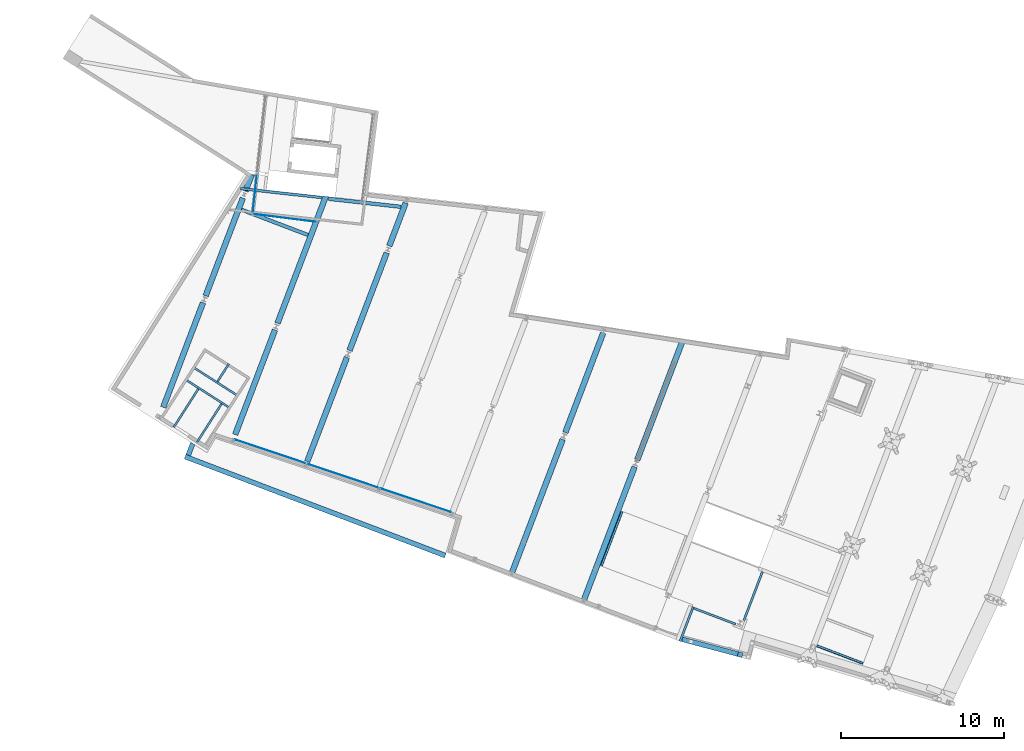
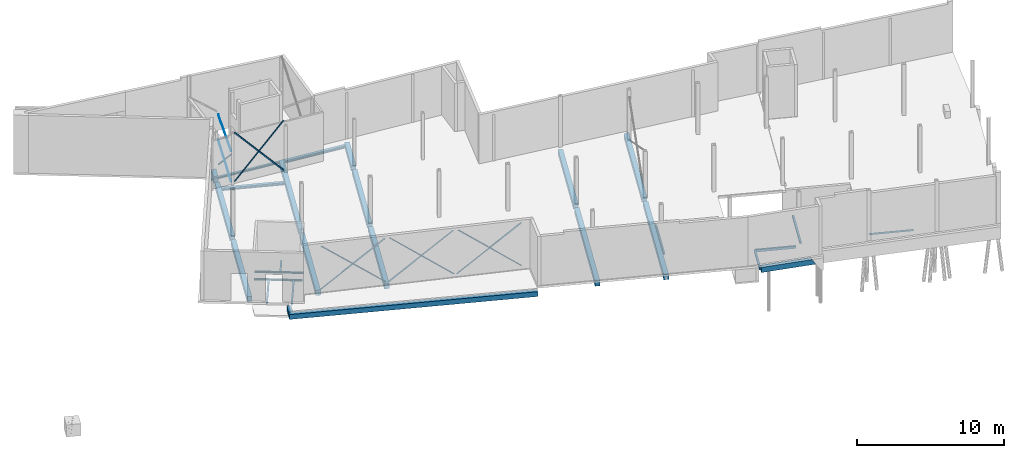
# One storey, part 39 of 46: 32 beams.
"""IFC2X3 building model written with IfcOpenShell, lengths in millimetres."""

from ifc_helpers import new_model, entity, si_unit, converted_unit, derived_unit, direction, frame, frame_2d, origin, place, context, subcontext, project, spatial, polyline, circle_curve, parameter, trimmed, segment, composite_curve, rectangle, i_section, outline, extrude, clip, halfspace, source, transform, mapped, material, type_object, type_shapes, element, save


model = new_model("IFC2X3")

# Units and contexts
model_context = context("Model", 3, precision=0.01, world=origin(), true_north=direction((6.123233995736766e-17, 1.0)))
body_context = subcontext(model_context, "Body", "Model", "MODEL_VIEW")
ifc_project = project(units=[si_unit("LENGTHUNIT", "METRE", prefix="MILLI"), converted_unit("PLANEANGLEUNIT", "DEGREE", entity("IfcPlaneAngleMeasure", 0.017453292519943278), si_unit("PLANEANGLEUNIT", "RADIAN"), dimensions=[0, 0, 0, 0, 0, 0, 0]), si_unit("AREAUNIT", "SQUARE_METRE"), derived_unit("THERMALTRANSMITTANCEUNIT", [(si_unit("MASSUNIT", "GRAM", prefix="KILO"), 1), (si_unit("THERMODYNAMICTEMPERATUREUNIT", "KELVIN"), -1), (si_unit("TIMEUNIT", "SECOND"), -3)])], contexts=[model_context])

# Site, building, storey
site_placement = place(None, frame((-72937.88054949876, 11621.45624098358, 0.0), z_axis=(0.0, 0.0, 1.0), x_axis=(0.9346418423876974, -0.35559053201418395, 0.0)))
site = spatial("IfcSite", under=ifc_project, at=site_placement, Name="Default", CompositionType="ELEMENT")
building_placement = place(site_placement, origin())
building = spatial("IfcBuilding", under=site, at=building_placement, CompositionType="ELEMENT")
storey_placement = place(building_placement, origin())
storey = spatial("IfcBuildingStorey", under=building, at=storey_placement, Name="00 begane grond", CompositionType="ELEMENT", Elevation=0.0)

# Beams
ifc_material_1 = material(Name="beton_gewapend_ihw")
beam_type_1 = type_object("IfcBeamType", Name="balk 350x600mm", PredefinedType="BEAM", material=ifc_material_1)
shared_shape_1 = source(origin(), body_context, "Body", "SweptSolid", [
    extrude(rectangle(XDim=430.0000000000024, YDim=349.9999999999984, at=frame_2d((-4.334310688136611e-12, 0.0), x_axis=(0.0, 1.0))), frame((43380.0, 12842.982078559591, -445.0), z_axis=(0.0, 1.0, 0.0), x_axis=(-1.0, 0.0, 0.0)), (0.0, 0.0, 1.0), 8812.017921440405),
    clip(extrude(rectangle(XDim=430.0000000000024, YDim=349.9999999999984, at=frame_2d((4.334310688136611e-12, 0.0), x_axis=(0.0, 1.0))), frame((43380.0, 22105.0, -445.0), z_axis=(0.0, 1.0, 0.0), x_axis=(-1.0, 0.0, 0.0)), (0.0, 0.0, 1.0), 7786.16173509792), halfspace(frame((49694.01432330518, 31194.879408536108, -3160.0), z_axis=(-0.2077333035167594, 0.9781855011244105, 0.0), x_axis=(0.9781855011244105, 0.2077333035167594, 0.0)), False)),
])
type_shapes(beam_type_1, [shared_shape_1])
beam_1_placement = place(storey_placement, origin())
element("IfcBeam", 1, at=beam_1_placement, inside=storey, type_object=beam_type_1, material=ifc_material_1, Name="28.11_SF_BetonBalk:balk 350x600mm", ObjectType="28.11_SF_BetonBalk:balk 350x600mm", context=body_context, shape_type="MappedRepresentation", body=[
    mapped(shared_shape_1, transform((0.0, 0.0, 0.0), scale=1.0)),
])
beam_type_2 = type_object("IfcBeamType", Name="balk 350x600mm", PredefinedType="BEAM", material=ifc_material_1)
shared_shape_2 = source(origin(), body_context, "Body", "SweptSolid", [
    extrude(rectangle(XDim=430.0000000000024, YDim=349.9999999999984, at=frame_2d((0.0, 0.0), x_axis=(0.0, 1.0))), frame((38650.0, 12842.982078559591, -445.0), z_axis=(0.0, 1.0, 0.0), x_axis=(-1.0, 0.0, 0.0)), (0.0, 0.0, 1.0), 8812.017921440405),
    extrude(rectangle(XDim=430.0000000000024, YDim=349.9999999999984, at=frame_2d((0.0, 0.0), x_axis=(0.0, 1.0))), frame((38650.0, 22105.0, -445.0), z_axis=(0.0, 1.0, 0.0), x_axis=(-1.0, 0.0, 0.0)), (0.0, 0.0, 1.0), 6562.653255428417),
])
type_shapes(beam_type_2, [shared_shape_2])
beam_2_placement = place(storey_placement, origin())
element("IfcBeam", 2, at=beam_2_placement, inside=storey, type_object=beam_type_2, material=ifc_material_1, Name="28.11_SF_BetonBalk:balk 350x600mm", ObjectType="28.11_SF_BetonBalk:balk 350x600mm", context=body_context, shape_type="MappedRepresentation", body=[
    mapped(shared_shape_2, transform((0.0, 0.0, 0.0), scale=1.0)),
])
beam_type_3 = type_object("IfcBeamType", Name="balk 350x600mm", PredefinedType="BEAM", material=ifc_material_1)
shared_shape_3 = source(origin(), body_context, "Body", "SweptSolid", [
    extrude(rectangle(XDim=430.0000000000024, YDim=349.9999999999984, at=frame_2d((0.0, 0.0), x_axis=(0.0, 1.0))), frame((24460.0, 14800.0, -445.0), z_axis=(0.0, 1.0, 0.0), x_axis=(-1.0, 0.0, 0.0)), (0.0, 0.0, 1.0), 6854.999999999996),
    extrude(rectangle(XDim=430.0000000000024, YDim=349.9999999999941, at=frame_2d((4.334310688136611e-12, 0.0), x_axis=(0.0, 1.0))), frame((24460.0, 22105.0, -445.0), z_axis=(0.0, 1.0, 0.0), x_axis=(-1.0, 0.0, 0.0)), (0.0, 0.0, 1.0), 6429.999999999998),
    extrude(rectangle(XDim=430.0000000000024, YDim=349.9999999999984, at=frame_2d((0.0, 0.0), x_axis=(0.0, 1.0))), frame((24460.0, 28985.0, -445.0), z_axis=(0.0, 1.0, 0.0), x_axis=(-1.0, 0.0, 0.0)), (0.0, 0.0, 1.0), 2824.9845835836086),
])
type_shapes(beam_type_3, [shared_shape_3])
beam_3_placement = place(storey_placement, origin())
element("IfcBeam", 3, at=beam_3_placement, inside=storey, type_object=beam_type_3, material=ifc_material_1, Name="28.11_SF_BetonBalk:balk 350x600mm", ObjectType="28.11_SF_BetonBalk:balk 350x600mm", context=body_context, shape_type="MappedRepresentation", body=[
    mapped(shared_shape_3, transform((0.0, 0.0, 0.0), scale=1.0)),
])
beam_type_4 = type_object("IfcBeamType", Name="balk 350x600mm", PredefinedType="BEAM", material=ifc_material_1)
shared_shape_4 = source(origin(), body_context, "Body", "SweptSolid", [
    extrude(rectangle(XDim=430.0000000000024, YDim=349.9999999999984, at=frame_2d((0.0, 0.0), x_axis=(0.0, 1.0))), frame((19730.0, 14775.0, -445.0), z_axis=(0.0, 1.0, 0.0), x_axis=(-1.0, 0.0, 0.0)), (0.0, 0.0, 1.0), 6879.999999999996),
    clip(extrude(rectangle(XDim=430.0000000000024, YDim=349.9999999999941, at=frame_2d((4.334310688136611e-12, 0.0), x_axis=(0.0, 1.0))), frame((19730.0, 22105.0, -445.0), z_axis=(0.0, 1.0, 0.0), x_axis=(-1.0, 0.0, 0.0)), (0.0, 0.0, 1.0), 8381.038285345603), halfspace(frame((19438.294575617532, 30365.012223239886, 16108.554295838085), z_axis=(-0.2510172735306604, 0.9679826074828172, 0.0), x_axis=(0.0, 0.0, -1.0)), False)),
])
type_shapes(beam_type_4, [shared_shape_4])
beam_4_placement = place(storey_placement, origin())
element("IfcBeam", 4, at=beam_4_placement, inside=storey, type_object=beam_type_4, material=ifc_material_1, Name="28.11_SF_BetonBalk:balk 350x600mm", ObjectType="28.11_SF_BetonBalk:balk 350x600mm", context=body_context, shape_type="MappedRepresentation", body=[
    mapped(shared_shape_4, transform((0.0, 0.0, 0.0), scale=1.0)),
])
beam_type_5 = type_object("IfcBeamType", Name="balk 350x600mm", PredefinedType="BEAM", material=ifc_material_1)
shared_shape_5 = source(origin(), body_context, "Body", "SweptSolid", [
    extrude(rectangle(XDim=430.0000000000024, YDim=350.00000000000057, at=frame_2d((-2.1600499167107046e-12, 0.0), x_axis=(0.0, 1.0))), frame((15000.0, 14775.0, -445.0), z_axis=(0.0, 1.0, 0.0), x_axis=(-1.0, 0.0, 0.0)), (0.0, 0.0, 1.0), 6879.999999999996),
    extrude(rectangle(XDim=430.0000000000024, YDim=350.00000000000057, at=frame_2d((0.0, 0.0), x_axis=(0.0, 1.0))), frame((15000.0, 22105.0, -445.0), z_axis=(0.0, 1.0, 0.0), x_axis=(-1.0, 0.0, 0.0)), (0.0, 0.0, 1.0), 6430.000000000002),
    clip(extrude(rectangle(XDim=430.0000000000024, YDim=350.00000000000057, at=frame_2d((-2.1600499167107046e-12, 0.0), x_axis=(0.0, 1.0))), frame((15000.0, 28985.0, -445.0), z_axis=(0.0, 1.0, 0.0), x_axis=(-1.0, 0.0, 0.0)), (0.0, 0.0, 1.0), 1123.627127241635), halfspace(frame((15794.922917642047, 30263.087579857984, -3160.0), z_axis=(-0.24176909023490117, 0.9703338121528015, 0.0), x_axis=(0.9703338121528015, 0.24176909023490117, 0.0)), False)),
])
type_shapes(beam_type_5, [shared_shape_5])
beam_5_placement = place(storey_placement, origin())
element("IfcBeam", 5, at=beam_5_placement, inside=storey, type_object=beam_type_5, material=ifc_material_1, Name="28.11_SF_BetonBalk:balk 350x600mm", ObjectType="28.11_SF_BetonBalk:balk 350x600mm", context=body_context, shape_type="MappedRepresentation", body=[
    mapped(shared_shape_5, transform((0.0, 0.0, 0.0), scale=1.0)),
])
beam_type_6 = type_object("IfcBeamType", Name="300x300mm", PredefinedType="BEAM")
beam_6_placement = place(storey_placement, frame((49740.0, 12622.982078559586, -60.0), z_axis=(0.0, 0.0, 1.0), x_axis=(0.994558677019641, 0.10417791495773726, 0.0)))
element("IfcBeam", 6, at=beam_6_placement, inside=storey, type_object=beam_type_6, material=ifc_material_1, Name="16.12_Beton balk", ObjectType="i.h.w.g. betonnen balk", context=body_context, shape_type="SweptSolid", body=[
    clip(clip(extrude(rectangle(XDim=430.0000000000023, YDim=300.0000000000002, at=frame_2d((-6.821210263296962e-13, -2.1600499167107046e-12), x_axis=(1.0, 0.0))), frame((150.82066394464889, 150.0, -385.0), z_axis=(1.0, 0.0, 0.0), x_axis=(0.0, 0.0, -1.0)), (0.0, 0.0, 1.0), 3836.7937327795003), halfspace(frame((146.58963205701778, -40.392529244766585, -170.0), z_axis=(-0.9945586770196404, 0.10417791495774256, 0.0), x_axis=(0.0, 0.0, -1.0)), False)), halfspace(frame((3586.0567089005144, 457.96317948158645, 0.0), z_axis=(0.8303916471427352, -0.005334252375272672, 0.5571546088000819), x_axis=(0.006423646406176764, 0.9999793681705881, 0.0)), False)),
])
beam_type_7 = type_object("IfcBeamType", Name="130x200mm", PredefinedType="BEAM")
beam_7_placement = place(storey_placement, frame((52950.0, 18420.0, -230.0), z_axis=(0.0, 0.0, 1.0), x_axis=(0.0, -1.0, 0.0)))
element("IfcBeam", 7, at=beam_7_placement, inside=storey, type_object=beam_type_7, material=ifc_material_1, Name="16.12_Beton balk", ObjectType="i.h.w.g. betonnen balk", context=body_context, shape_type="SweptSolid", body=[
    extrude(rectangle(XDim=200.00000000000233, YDim=129.99999999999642, at=frame_2d((-2.1316282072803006e-14, -4.32720526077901e-12), x_axis=(1.0, 0.0))), frame((0.0, 65.0, -100.0), z_axis=(1.0, 0.0, 0.0), x_axis=(0.0, 0.0, -1.0)), (0.0, 0.0, 1.0), 3195.0000000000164),
])
beam_8_placement = place(storey_placement, frame((49740.0, 14890.0, -230.0), z_axis=(0.0, 0.0, 1.0), x_axis=(0.0, -1.0, 0.0)))
element("IfcBeam", 8, at=beam_8_placement, inside=storey, type_object=beam_type_7, material=ifc_material_1, Name="16.12_Beton balk", ObjectType="i.h.w.g. betonnen balk", context=body_context, shape_type="SweptSolid", body=[
    extrude(rectangle(XDim=200.00000000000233, YDim=129.99999999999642, at=frame_2d((-2.1316282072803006e-14, 4.32720526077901e-12), x_axis=(1.0, 0.0))), frame((0.0, 65.0, -100.0), z_axis=(1.0, 0.0, 0.0), x_axis=(0.0, 0.0, -1.0)), (0.0, 0.0, 1.0), 2267.0179214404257),
])
beam_9_placement = place(storey_placement, frame((52615.0, 14890.0, -230.0), z_axis=(0.0, 0.0, 1.0), x_axis=(-1.0, 0.0, 0.0)))
element("IfcBeam", 9, at=beam_9_placement, inside=storey, type_object=beam_type_7, material=ifc_material_1, Name="16.12_Beton balk", ObjectType="i.h.w.g. betonnen balk", context=body_context, shape_type="SweptSolid", body=[
    extrude(rectangle(XDim=200.00000000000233, YDim=130.00000000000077, at=frame_2d((-2.1316282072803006e-14, 0.0), x_axis=(1.0, 0.0))), frame((0.0, 65.0, -100.0), z_axis=(1.0, 0.0, 0.0), x_axis=(0.0, 0.0, -1.0)), (0.0, 0.0, 1.0), 2745.0000000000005),
])
ifc_material_2 = material(Name="metaal_staal_generiek")
beam_type_8 = type_object("IfcBeamType", Name="HEA160", PredefinedType="BEAM")
beam_10_placement = place(storey_placement, frame((14468.30427686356, 29055.53276448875, -230.0), z_axis=(0.0, 0.0, 1.0), x_axis=(0.967982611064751, 0.25101725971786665, 0.0)))
element("IfcBeam", 10, at=beam_10_placement, inside=storey, type_object=beam_type_8, material=ifc_material_2, Name="28.11_Stalen balk HEA", ObjectType="stalen balk HEA profiel", context=body_context, shape_type="SweptSolid", body=[
    extrude(i_section(OverallWidth=159.99999999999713, OverallDepth=151.99999999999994, WebThickness=6.000000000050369, FlangeThickness=9.000000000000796, FilletRadius=14.999999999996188, at=frame_2d((6.252776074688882e-13, 2.3661073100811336e-12), x_axis=(0.0, 1.0))), frame((174.29066163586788, -80.0, -76.0), z_axis=(1.0, 0.0, 0.0), x_axis=(0.0, 0.0, -1.0)), (0.0, 0.0, 1.0), 5022.100000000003),
])
beam_type_9 = type_object("IfcBeamType", Name="HEA220", PredefinedType="BEAM")
beam_11_placement = place(storey_placement, frame((19712.428791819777, 30415.4391825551, -230.0), z_axis=(0.0, 0.0, 1.0), x_axis=(0.967982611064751, 0.25101725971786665, 0.0)))
element("IfcBeam", 11, at=beam_11_placement, inside=storey, type_object=beam_type_9, material=ifc_material_2, Name="28.11_Stalen balk HEA", ObjectType="stalen balk HEA profiel", context=body_context, shape_type="SweptSolid", body=[
    extrude(i_section(OverallWidth=219.99999999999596, OverallDepth=209.99999999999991, WebThickness=6.999999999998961, FlangeThickness=11.000000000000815, FilletRadius=18.000000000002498, at=frame_2d((6.110667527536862e-13, 0.0), x_axis=(0.0, 1.0))), frame((211.3170001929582, -110.0, -105.0), z_axis=(1.0, 0.0, 0.0), x_axis=(0.0, 0.0, -1.0)), (0.0, 0.0, 1.0), 4473.65448540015),
])
beam_12_placement = place(storey_placement, frame((15000.0, 27834.010811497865, -230.0)))
element("IfcBeam", 12, at=beam_12_placement, inside=storey, type_object=beam_type_9, material=ifc_material_2, Name="28.11_Stalen balk HEA", ObjectType="stalen balk HEA profiel", context=body_context, shape_type="SweptSolid", body=[
    extrude(i_section(OverallWidth=219.99999999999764, OverallDepth=209.99999999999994, WebThickness=7.00000000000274, FlangeThickness=11.000000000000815, FilletRadius=18.000000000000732, at=frame_2d((5.968558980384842e-13, 2.1671553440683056e-12), x_axis=(0.0, 1.0))), frame((175.0, 0.0, -105.0), z_axis=(1.0, 0.0, 0.0), x_axis=(0.0, 0.0, -1.0)), (0.0, 0.0, 1.0), 4380.000000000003),
])
ifc_material_3 = material(Name="beton_gewapend_ihw_c30/37")
beam_type_10 = type_object("IfcBeamType", Name="300x400mm", PredefinedType="BEAM")
beam_13_placement = place(storey_placement, frame((34441.78822145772, 12266.39084110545, -260.0), z_axis=(0.0, 0.0, 1.0), x_axis=(-1.0, 0.0, 0.0)))
element("IfcBeam", 13, at=beam_13_placement, inside=storey, type_object=beam_type_10, material=ifc_material_3, Name="16.12_Beton balk", ObjectType="i.h.w.g. betonnen balk", context=body_context, shape_type="SweptSolid", body=[
    extrude(rectangle(XDim=400.00000000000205, YDim=299.9999999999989, at=frame_2d((5.684341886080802e-14, 0.0), x_axis=(1.0, 0.0))), frame((0.0, -150.0, -200.0), z_axis=(1.0, 0.0, 0.0), x_axis=(0.0, 0.0, -1.0)), (0.0, 0.0, 1.0), 17103.76899841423),
])
beam_14_placement = place(storey_placement, frame((17338.01922304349, 12266.390841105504, -260.0), z_axis=(0.0, 0.0, 1.0), x_axis=(0.0, 1.0, 0.0)))
element("IfcBeam", 14, at=beam_14_placement, inside=storey, type_object=beam_type_10, material=ifc_material_3, Name="16.12_Beton balk", ObjectType="i.h.w.g. betonnen balk", context=body_context, shape_type="SweptSolid", body=[
    clip(extrude(rectangle(XDim=400.0000000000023, YDim=299.9999999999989, at=frame_2d((-8.526512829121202e-14, 0.0), x_axis=(1.0, 0.0))), frame((300.0, -150.0, -200.0), z_axis=(1.0, 0.0, 0.0), x_axis=(0.0, 0.0, -1.0)), (0.0, 0.0, 1.0), 793.8931185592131), halfspace(frame((861.2936738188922, -1141.4448393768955, -2900.0), z_axis=(0.9798626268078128, -0.1996728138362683, 0.0), x_axis=(-0.1996728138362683, -0.9798626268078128, 0.0)), False)),
])
beam_type_11 = type_object("IfcBeamType", Name="STRIP 8x80", PredefinedType="NOTDEFINED")
beam_15_placement = place(storey_placement, frame((29190.0, 14858.05219420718, -60.0), z_axis=(0.6285029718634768, 0.024878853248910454, 0.777409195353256), x_axis=(-0.7768008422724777, -0.03074912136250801, 0.6289951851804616)))
element("IfcBeam", 15, at=beam_15_placement, inside=storey, type_object=beam_type_11, material=ifc_material_2, Name="28.11_SF_WVB-Strip:STRIP 8x80", ObjectType="28.11_SF_WVB-Strip:STRIP 8x80", context=body_context, shape_type="SweptSolid", body=[
    extrude(rectangle(XDim=79.99999999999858, YDim=8.000000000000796, at=frame_2d((-8.171241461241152e-14, -1.0822454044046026e-12), x_axis=(1.0, 0.0))), frame((136.33840843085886, 0.0, 0.0), z_axis=(1.0, 0.0, 0.0), x_axis=(0.0, 0.0, -1.0)), (0.0, 0.0, 1.0), 5743.100000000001),
])
beam_16_placement = place(storey_placement, frame((24460.0, 14670.818432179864, -60.0), z_axis=(-0.6285029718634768, -0.024878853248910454, 0.7774091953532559), x_axis=(0.7768008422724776, 0.030749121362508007, 0.6289951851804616)))
element("IfcBeam", 16, at=beam_16_placement, inside=storey, type_object=beam_type_11, material=ifc_material_2, Name="28.11_SF_WVB-Strip:STRIP 8x80", ObjectType="28.11_SF_WVB-Strip:STRIP 8x80", context=body_context, shape_type="SweptSolid", body=[
    extrude(rectangle(XDim=79.99999999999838, YDim=8.000000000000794, at=frame_2d((7.460698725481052e-14, 1.0824674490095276e-12), x_axis=(1.0, 0.0))), frame((136.3384084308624, 0.0, 0.0), z_axis=(1.0, 0.0, 0.0), x_axis=(0.0, 0.0, -1.0)), (0.0, 0.0, 1.0), 5738.100000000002),
])
beam_17_placement = place(storey_placement, frame((33920.0, 15045.285956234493, -60.0), z_axis=(0.6285029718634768, 0.024878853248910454, 0.777409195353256), x_axis=(-0.7768008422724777, -0.03074912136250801, 0.6289951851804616)))
element("IfcBeam", 17, at=beam_17_placement, inside=storey, type_object=beam_type_11, material=ifc_material_2, Name="28.11_SF_WVB-Strip:STRIP 8x80", ObjectType="28.11_SF_WVB-Strip:STRIP 8x80", context=body_context, shape_type="SweptSolid", body=[
    extrude(rectangle(XDim=79.99999999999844, YDim=7.999999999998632, at=frame_2d((-1.0302869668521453e-13, 0.0), x_axis=(1.0, 0.0))), frame((192.38840843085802, 0.0, 0.0), z_axis=(1.0, 0.0, 0.0), x_axis=(0.0, 0.0, -1.0)), (0.0, 0.0, 1.0), 5646.600000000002),
])
beam_18_placement = place(storey_placement, frame((29190.0, 14858.05219420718, -60.0), z_axis=(-0.6285029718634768, -0.024878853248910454, 0.7774091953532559), x_axis=(0.7768008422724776, 0.030749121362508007, 0.6289951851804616)))
element("IfcBeam", 18, at=beam_18_placement, inside=storey, type_object=beam_type_11, material=ifc_material_2, Name="28.11_SF_WVB-Strip:STRIP 8x80", ObjectType="28.11_SF_WVB-Strip:STRIP 8x80", context=body_context, shape_type="SweptSolid", body=[
    extrude(rectangle(XDim=79.99999999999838, YDim=8.000000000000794, at=frame_2d((7.460698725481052e-14, 1.0824674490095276e-12), x_axis=(1.0, 0.0))), frame((136.33840843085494, 0.0, 0.0), z_axis=(1.0, 0.0, 0.0), x_axis=(0.0, 0.0, -1.0)), (0.0, 0.0, 1.0), 5738.100000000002),
])
beam_19_placement = place(storey_placement, frame((24460.0, 14670.818432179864, -60.0), z_axis=(0.6235055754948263, 0.024681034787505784, 0.781429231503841), x_axis=(-0.7808177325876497, -0.03090812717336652, 0.6239938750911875)))
element("IfcBeam", 19, at=beam_19_placement, inside=storey, type_object=beam_type_11, material=ifc_material_2, Name="28.11_SF_WVB-Strip:STRIP 8x80", ObjectType="28.11_SF_WVB-Strip:STRIP 8x80", context=body_context, shape_type="SweptSolid", body=[
    extrude(rectangle(XDim=80.00000000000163, YDim=7.999999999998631, at=frame_2d((-2.177813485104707e-12, 8.570921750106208e-14), x_axis=(1.0, 0.0))), frame((137.97588395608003, 0.0, 0.0), z_axis=(1.0, 0.0, 0.0), x_axis=(0.0, 0.0, -1.0)), (0.0, 0.0, 1.0), 5711.800000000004),
])
beam_20_placement = place(storey_placement, frame((19730.0, 14483.584670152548, -60.0), z_axis=(-0.6285029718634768, -0.024878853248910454, 0.7774091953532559), x_axis=(0.7768008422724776, 0.030749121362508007, 0.6289951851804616)))
element("IfcBeam", 20, at=beam_20_placement, inside=storey, type_object=beam_type_11, material=ifc_material_2, Name="28.11_SF_WVB-Strip:STRIP 8x80", ObjectType="28.11_SF_WVB-Strip:STRIP 8x80", context=body_context, shape_type="SweptSolid", body=[
    extrude(rectangle(XDim=79.99999999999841, YDim=8.000000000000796, at=frame_2d((8.881784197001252e-14, 1.0818013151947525e-12), x_axis=(1.0, 0.0))), frame((136.33840843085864, 0.0, 0.0), z_axis=(1.0, 0.0, 0.0), x_axis=(0.0, 0.0, -1.0)), (0.0, 0.0, 1.0), 5738.100000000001),
])
beam_type_12 = type_object("IfcBeamType", Name="L150x15", PredefinedType="BEAM")
beam_21_placement = place(storey_placement, frame((43555.0, 15245.0, -95.0), z_axis=(0.0, 0.0, 1.0), x_axis=(0.0, 1.0, 0.0)))
element("IfcBeam", 21, at=beam_21_placement, inside=storey, type_object=beam_type_12, material=ifc_material_2, Name="28.11_SF_BalkL-Gelijkzijdig:L150x15", ObjectType="{$type(\"IfcObjectType[Type]\")}", context=body_context, shape_type="SweptSolid", body=[
    extrude(outline(composite_curve([segment(polyline([(49.66666666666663, -93.3333333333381), (56.66666666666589, -93.3333333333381)]), True, "CONTINUOUS"), segment(polyline([(56.66666666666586, -93.3333333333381), (56.66666666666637, 56.66666666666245)]), True, "CONTINUOUS"), segment(polyline([(56.666666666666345, 56.66666666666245), (-93.33333333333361, 56.66666666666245)]), True, "CONTINUOUS"), segment(polyline([(-93.33333333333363, 56.66666666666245), (-93.33333333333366, 49.66666666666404)]), True, "CONTINUOUS"), segment(trimmed(circle_curve(frame_2d((-85.33333333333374, 49.66666666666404), x_axis=(-1.0, 0.0)), 7.999999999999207), [parameter(0.0)], [parameter(90.00000000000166)], True, "PARAMETER"), True, "CONTINUOUS"), segment(polyline([(-85.33333333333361, 41.66666666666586), (25.666666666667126, 41.66666666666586)]), True, "CONTINUOUS"), segment(trimmed(circle_curve(frame_2d((25.666666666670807, 25.666666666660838), x_axis=(0.0, 1.0)), 15.999999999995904), [parameter(269.9999999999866)], [parameter(0.0)], True, "PARAMETER"), False, "CONTINUOUS"), segment(polyline([(41.66666666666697, 25.6666666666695), (41.66666666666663, -85.33333333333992)]), True, "CONTINUOUS"), segment(trimmed(circle_curve(frame_2d((49.66666666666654, -85.33333333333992), x_axis=(-1.0, 0.0)), 7.999999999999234), [parameter(0.0)], [parameter(90.00000000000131)], True, "PARAMETER"), True, "CONTINUOUS")], self_intersect=False)), frame((0.0, -56.66666666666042, -93.33333333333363), z_axis=(1.0, 0.0, 0.0), x_axis=(0.0, 0.0, -1.0)), (0.0, 0.0, 1.0), 3560.0000000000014),
])
beam_22_placement = place(storey_placement, frame((57755.0, 15280.0, -95.0)))
element("IfcBeam", 22, at=beam_22_placement, inside=storey, type_object=beam_type_12, material=ifc_material_2, Name="28.11_SF_BalkL-Gelijkzijdig:L150x15", ObjectType="{$type(\"IfcObjectType[Type]\")}", context=body_context, shape_type="SweptSolid", body=[
    extrude(outline(composite_curve([segment(polyline([(-93.33333333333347, -56.66666666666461), (56.66666666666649, -56.66666666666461)]), True, "CONTINUOUS"), segment(polyline([(56.66666666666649, -56.66666666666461), (56.666666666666, 93.33333333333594)]), True, "CONTINUOUS"), segment(polyline([(56.666666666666, 93.33333333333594), (49.66666666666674, 93.33333333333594)]), True, "CONTINUOUS"), segment(trimmed(circle_curve(frame_2d((49.66666666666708, 85.3333333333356), x_axis=(0.0, 1.0)), 8.00000000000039), [parameter(0.0)], [parameter(89.9999999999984)], True, "PARAMETER"), True, "CONTINUOUS"), segment(polyline([(41.66666666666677, 85.3333333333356), (41.66666666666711, -25.666666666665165)]), True, "CONTINUOUS"), segment(trimmed(circle_curve(frame_2d((25.666666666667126, -25.666666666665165), x_axis=(1.0, 0.0)), 15.999999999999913), [parameter(270.0000000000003)], [parameter(0.0)], True, "PARAMETER"), False, "CONTINUOUS"), segment(polyline([(25.66666666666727, -41.66666666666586), (-85.33333333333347, -41.66666666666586)]), True, "CONTINUOUS"), segment(trimmed(circle_curve(frame_2d((-85.33333333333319, -49.6666666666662), x_axis=(0.0, 1.0)), 8.00000000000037), [parameter(0.0)], [parameter(89.99999999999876)], True, "PARAMETER"), True, "CONTINUOUS"), segment(polyline([(-93.33333333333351, -49.6666666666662), (-93.33333333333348, -56.66666666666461)]), True, "CONTINUOUS")], self_intersect=False)), frame((0.0, 56.666666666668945, -93.33333333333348), z_axis=(1.0, 0.0, 0.0), x_axis=(0.0, 0.0, -1.0)), (0.0, 0.0, 1.0), 3040.0000000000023),
])
beam_type_13 = type_object("IfcBeamType", Name="HEB120", PredefinedType="BEAM")
beam_23_placement = place(storey_placement, frame((17543.17620280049, 17376.53621414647, -230.0), z_axis=(0.0, 0.0, 1.0), x_axis=(0.2044421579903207, 0.9788786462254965, 0.0)))
element("IfcBeam", 23, at=beam_23_placement, inside=storey, type_object=beam_type_13, material=ifc_material_2, Name="28.11_Stalen balk HEB", ObjectType="28.11_SF_BalkHEB:HEB120", context=body_context, shape_type="SweptSolid", body=[
    extrude(i_section(OverallWidth=120.00000000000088, OverallDepth=119.99999999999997, WebThickness=6.500000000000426, FlangeThickness=11.000000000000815, FilletRadius=12.000000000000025, at=frame_2d((5.577760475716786e-13, 3.3999469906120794e-12), x_axis=(0.0, 1.0))), frame((60.0, 0.0, -60.0), z_axis=(1.0, 0.0, 0.0), x_axis=(0.0, 0.0, -1.0)), (0.0, 0.0, 1.0), 1289.9999999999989),
])
beam_24_placement = place(storey_placement, frame((17706.093424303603, 13509.8004168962, -230.0), z_axis=(0.0, 0.0, 1.0), x_axis=(0.20444215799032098, 0.9788786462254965, 0.0)))
element("IfcBeam", 24, at=beam_24_placement, inside=storey, type_object=beam_type_13, material=ifc_material_2, Name="28.11_Stalen balk HEB", ObjectType="28.11_SF_BalkHEB:HEB120", context=body_context, shape_type="SweptSolid", body=[
    extrude(i_section(OverallWidth=120.00000000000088, OverallDepth=120.0, WebThickness=6.500000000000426, FlangeThickness=11.000000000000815, FilletRadius=12.000000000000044, at=frame_2d((5.435651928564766e-13, 1.2754242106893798e-12), x_axis=(0.0, 1.0))), frame((1.517501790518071, 0.0, -60.0), z_axis=(1.0, 0.0, 0.0), x_axis=(0.0, 0.0, -1.0)), (0.0, 0.0, 1.0), 2796.0000000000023),
])
beam_25_placement = place(storey_placement, frame((15710.948814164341, 16845.685499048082, -230.0), z_axis=(0.0, 0.0, 1.0), x_axis=(0.9788786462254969, -0.20444215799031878, 0.0)))
element("IfcBeam", 25, at=beam_25_placement, inside=storey, type_object=beam_type_13, material=ifc_material_2, Name="28.11_Stalen balk HEB", ObjectType="28.11_SF_BalkHEB:HEB120", context=body_context, shape_type="SweptSolid", body=[
    extrude(i_section(OverallWidth=120.00000000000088, OverallDepth=119.99999999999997, WebThickness=6.500000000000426, FlangeThickness=11.000000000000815, FilletRadius=12.000000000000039, at=frame_2d((5.577760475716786e-13, 0.0), x_axis=(0.0, 1.0))), frame((-75.0, 0.0, -60.0), z_axis=(1.0, 0.0, 0.0), x_axis=(0.0, 0.0, -1.0)), (0.0, 0.0, 1.0), 3320.0000000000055),
])
beam_26_placement = place(storey_placement, frame((16041.999725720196, 13857.352085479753, -230.0), z_axis=(0.0, 0.0, 1.0), x_axis=(0.20444215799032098, 0.9788786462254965, 0.0)))
element("IfcBeam", 26, at=beam_26_placement, inside=storey, type_object=beam_type_13, material=ifc_material_2, Name="28.11_Stalen balk HEB", ObjectType="28.11_SF_BalkHEB:HEB120", context=body_context, shape_type="SweptSolid", body=[
    extrude(i_section(OverallWidth=120.00000000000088, OverallDepth=120.0, WebThickness=6.500000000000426, FlangeThickness=11.000000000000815, FilletRadius=12.000000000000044, at=frame_2d((5.435651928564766e-13, -3.3999469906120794e-12), x_axis=(0.0, 1.0))), frame((1.5350035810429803, 0.0, -60.0), z_axis=(1.0, 0.0, 0.0), x_axis=(0.0, 0.0, -1.0)), (0.0, 0.0, 1.0), 2795.9824982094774),
])
beam_27_placement = place(storey_placement, frame((15893.765683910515, 17721.02125036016, -230.0), z_axis=(0.0, 0.0, 1.0), x_axis=(0.9788786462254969, -0.20444215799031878, 0.0)))
element("IfcBeam", 27, at=beam_27_placement, inside=storey, type_object=beam_type_13, material=ifc_material_2, Name="28.11_Stalen balk HEB", ObjectType="28.11_SF_BalkHEB:HEB120", context=body_context, shape_type="SweptSolid", body=[
    extrude(i_section(OverallWidth=120.00000000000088, OverallDepth=119.99999999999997, WebThickness=6.500000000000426, FlangeThickness=11.000000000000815, FilletRadius=12.000000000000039, at=frame_2d((5.577760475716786e-13, 2.3376856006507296e-12), x_axis=(0.0, 1.0))), frame((-75.0, 0.0, -60.0), z_axis=(1.0, 0.0, 0.0), x_axis=(0.0, 0.0, -1.0)), (0.0, 0.0, 1.0), 3320.0000000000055),
])
beam_type_14 = type_object("IfcBeamType", Name="STRIP 10x100", PredefinedType="NOTDEFINED")
beam_28_placement = place(storey_placement, frame((19730.0, 28760.0, -60.0), z_axis=(0.765694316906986, -0.13103503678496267, 0.6297158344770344), x_axis=(-0.643204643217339, -0.15598889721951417, 0.7496367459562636)))
element("IfcBeam", 28, at=beam_28_placement, inside=storey, type_object=beam_type_14, material=ifc_material_2, Name="28.11_SF_WVB-Strip:STRIP 10x100", ObjectType="28.11_SF_WVB-Strip:STRIP 10x100", context=body_context, shape_type="SweptSolid", body=[
    extrude(rectangle(XDim=99.99999999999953, YDim=9.999999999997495, at=frame_2d((-2.028599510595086e-12, 2.615685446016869e-12), x_axis=(1.0, 0.0))), frame((101.0042344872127, 0.0, 0.0), z_axis=(1.0, 0.0, 0.0), x_axis=(0.0, -0.30780737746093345, 0.9514486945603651)), (0.0, 0.0, 1.0), 5568.800000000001),
])
beam_29_placement = place(storey_placement, frame((15911.803149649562, 27834.017387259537, -60.0), z_axis=(0.7650107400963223, -0.1314838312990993, -0.6304526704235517), x_axis=(0.6440175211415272, 0.15618603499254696, 0.7488974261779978)))
element("IfcBeam", 29, at=beam_29_placement, inside=storey, type_object=beam_type_14, material=ifc_material_2, Name="28.11_SF_WVB-Strip:STRIP 10x100", ObjectType="28.11_SF_WVB-Strip:STRIP 10x100", context=body_context, shape_type="SweptSolid", body=[
    extrude(rectangle(XDim=100.00000000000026, YDim=9.999999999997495, at=frame_2d((5.435651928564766e-13, 2.1040946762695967e-12), x_axis=(1.0, 0.0))), frame((278.6578978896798, 0.0, 0.0), z_axis=(1.0, 0.0, 0.0), x_axis=(0.0, -0.30808241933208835, 0.9513596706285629)), (0.0, 0.0, 1.0), 5436.400000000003),
])
beam_30_placement = place(storey_placement, frame((15279.44422966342, 30263.472175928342, -60.0), z_axis=(0.9845182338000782, 0.12042911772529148, -0.1273604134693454), x_axis=(0.17528219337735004, -0.6764216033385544, 0.7153530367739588)))
element("IfcBeam", 30, at=beam_30_placement, inside=storey, type_object=beam_type_14, material=ifc_material_2, Name="28.11_SF_WVB-Strip:STRIP 10x100", ObjectType="28.11_SF_WVB-Strip:STRIP 10x100", context=body_context, shape_type="SweptSolid", body=[
    extrude(rectangle(XDim=100.00000000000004, YDim=9.9999999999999, at=frame_2d((3.623767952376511e-13, 1.0480505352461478e-12), x_axis=(1.0, 0.0))), frame((259.46585237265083, 0.0, 0.0), z_axis=(1.0, 0.0, 0.0), x_axis=(0.0, -0.9832493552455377, -0.1822654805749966)), (0.0, 0.0, 1.0), 3094.5999999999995),
])
beam_31_placement = place(storey_placement, frame((15279.44422966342, 30263.472175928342, 2320.0), z_axis=(0.17330571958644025, -0.6658218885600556, 0.7257040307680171), x_axis=(0.18280141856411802, -0.7023033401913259, -0.6880070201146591)))
element("IfcBeam", 31, at=beam_31_placement, inside=storey, type_object=beam_type_14, material=ifc_material_2, Name="28.11_SF_WVB-Strip:STRIP 10x100", ObjectType="28.11_SF_WVB-Strip:STRIP 10x100", context=body_context, shape_type="SweptSolid", body=[
    extrude(rectangle(XDim=99.99999999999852, YDim=10.000000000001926, at=frame_2d((-3.0873081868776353e-12, 2.5983659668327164e-12), x_axis=(1.0, 0.0))), frame((246.68351420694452, 0.0, 0.0), z_axis=(1.0, 0.0, 0.0), x_axis=(0.0, 0.0, -1.0)), (0.0, 0.0, 1.0), 2986.5000000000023),
])
beam_32_placement = place(storey_placement, frame((15279.44422966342, 30263.472175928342, 4390.0), z_axis=(0.1503644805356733, -0.5802630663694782, 0.8004281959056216), x_axis=(0.20078448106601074, -0.7748360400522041, -0.5994286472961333)))
element("IfcBeam", 32, at=beam_32_placement, inside=storey, type_object=beam_type_14, material=ifc_material_2, Name="28.11_SF_WVB-Strip:STRIP 10x100", ObjectType="28.11_SF_WVB-Strip:STRIP 10x100", context=body_context, shape_type="SweptSolid", body=[
    extrude(rectangle(XDim=100.00000000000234, YDim=9.999999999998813, at=frame_2d((8.810729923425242e-13, 1.5920598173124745e-12), x_axis=(1.0, 0.0))), frame((213.65995404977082, 0.0, 0.0), z_axis=(1.0, 0.0, 0.0), x_axis=(0.0, 0.0, -1.0)), (0.0, 0.0, 1.0), 2728.900000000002),
])

save(model, "model.ifc")
